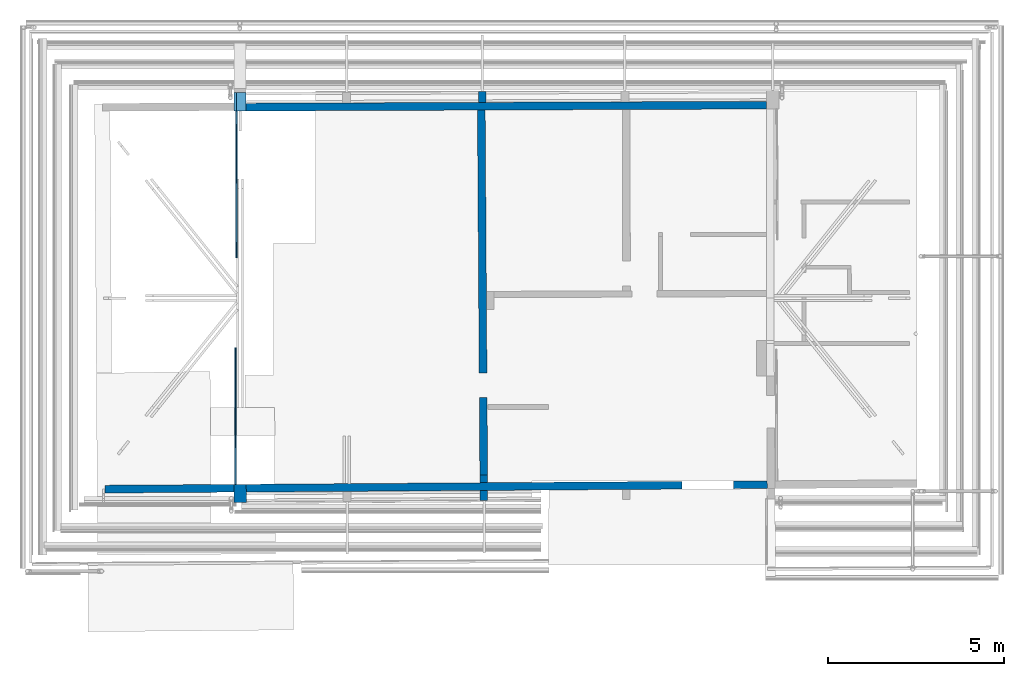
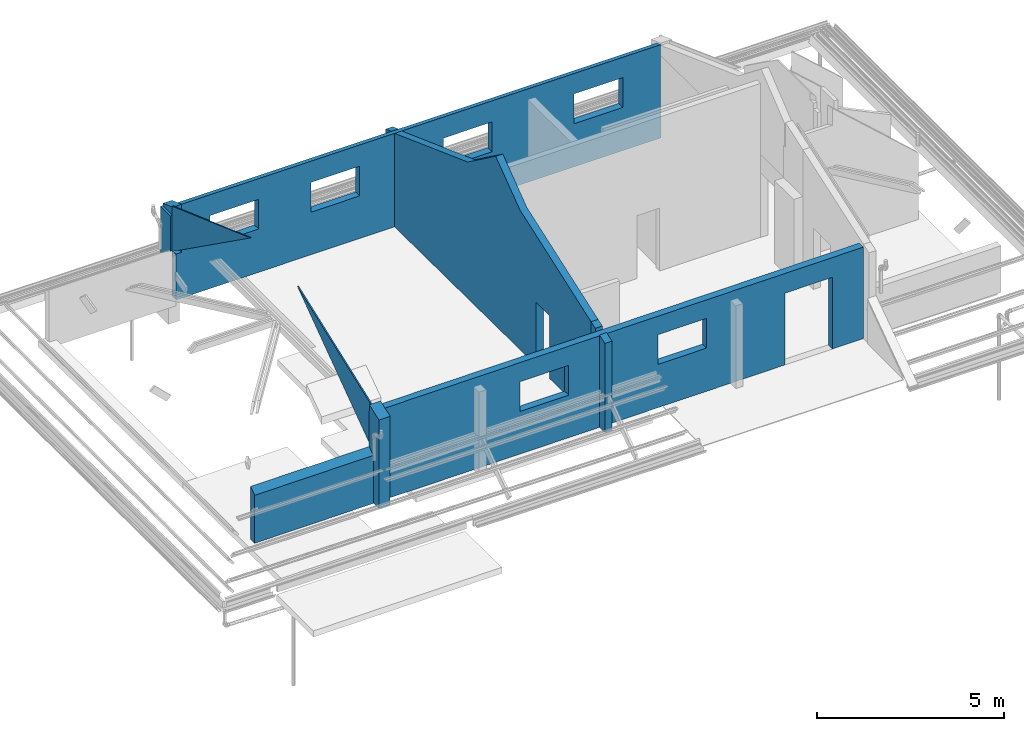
# One storey, part 8 of 15: 11 walls.
"""IFC2X3 building model written with IfcOpenShell, lengths in centimetres."""

from ifc_helpers import new_model, entity, si_unit, converted_unit, direction, frame, origin, place, context, subcontext, project, spatial, faceted_brep, material, layer, layer_set, type_object, element, save


model = new_model("IFC2X3")

# Units and contexts
model_context = context("Model", 3, precision=0.001, world=frame((0.0, 0.0, 13090.0)), true_north=direction((6.123233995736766e-17, 1.0)))
body_context = subcontext(model_context, "Body", "Model", "MODEL_VIEW")
ifc_project = project(units=[si_unit("LENGTHUNIT", "METRE", prefix="CENTI"), si_unit("AREAUNIT", "SQUARE_METRE"), si_unit("VOLUMEUNIT", "CUBIC_METRE"), converted_unit("PLANEANGLEUNIT", "DEGREE", entity("IfcPlaneAngleMeasure", 0.017453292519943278), si_unit("PLANEANGLEUNIT", "RADIAN"), dimensions=[0, 0, 0, 0, 0, 0, 0])], contexts=[model_context])

# Site, building, storey
site_placement = place(None, origin())
site = spatial("IfcSite", under=ifc_project, at=site_placement, Name="Default", CompositionType="ELEMENT")
building_placement = place(site_placement, origin())
building = spatial("IfcBuilding", under=site, at=building_placement, Name="e 39 logements et 22 maisons relais", CompositionType="ELEMENT")
storey_placement = place(building_placement, frame((0.0, 0.0, 340.0)))
storey = spatial("IfcBuildingStorey", under=building, at=storey_placement, Name="R+1", CompositionType="ELEMENT", Elevation=339.99999999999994)

# Walls
ifc_material_1 = material(Name="Béton - Béton coulé sur place")
ifc_layer_1 = layer(ifc_material_1, 22.0)
ifc_layer_set_1 = layer_set([ifc_layer_1], Name="Mur de base:BA - 22cm")
wall_type_1 = type_object("IfcWallType", Name="Mur de base:BA - 22cm", PredefinedType="STANDARD", material=ifc_layer_set_1)
wall_1_placement = place(storey_placement, frame((-912.5294746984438, 520.2105110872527, 0.0), z_axis=(0.0, 0.0, 1.0), x_axis=(0.9999924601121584, 0.0038832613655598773, 0.0)))
element("IfcWall", 1, at=wall_1_placement, inside=storey, type_object=wall_type_1, Name="Mur de base:BA - 22cm", ObjectType="Mur de base:BA - 22cm", context=body_context, shape_type="Brep", body=[
    faceted_brep([(0.0, -11.0, 148.92107592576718), (0.0, -11.0, 0.0), (17.45741575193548, -11.0, 148.92107592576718), (104.36146155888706, -11.0, 141.0), (255.3614615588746, -11.0, 141.0), (416.5725288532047, -11.0, 139.0), (675.6071357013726, -11.0, 0.0), (567.5725288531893, -11.0, 139.0), (697.6072143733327, -11.0, 0.0), (826.4416675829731, -11.0, 139.0), (1087.74298781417, -11.0, 0.0), (977.4416675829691, -11.0, 139.0), (1109.7430308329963, -11.0, 0.0), (1230.5369692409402, -11.0, 141.0), (1498.1881555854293, -11.0, 0.0), (1381.5369692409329, -11.0, 141.0), (1498.6934013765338, -11.0, 0.0), (1498.693401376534, -11.0, 304.3338605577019), (1381.5369692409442, -11.0, 238.0), (1338.4761668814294, -11.0, 304.4954103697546), (1230.5369692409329, -11.0, 238.0), (1178.2589308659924, -11.0, 304.655528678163), (977.4416675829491, -11.0, 236.0), (1018.0416934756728, -11.0, 304.8142154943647), (857.8244545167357, -11.0, 304.9714708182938), (826.4416675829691, -11.0, 236.0), (697.607214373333, -11.0, 305.12729469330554), (686.6071750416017, -11.0, 305.13794058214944), (675.607135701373, -11.0, 305.1485797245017), (567.5725288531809, -11.0, 236.0), (511.06970786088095, -11.0, 305.3069135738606), (416.5725288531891, -11.0, 236.0), (346.5322786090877, -11.0, 305.4637377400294), (255.36146155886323, -11.0, 238.0), (181.9948479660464, -11.0, 305.6190522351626), (104.36146155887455, -11.0, 238.0), (17.45741575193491, -11.0, 305.77285707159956), (17.45741575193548, -11.0, 164.61507589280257), (1498.6817504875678, 11.0, 0.0), (1106.3326989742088, 11.0, 0.0), (1230.5369692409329, 11.0, 141.0), (1381.5369692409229, 11.0, 141.0), (1498.6817504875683, 11.0, 296.23744807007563), (977.4416675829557, 11.0, 139.0), (1084.3325330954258, 11.0, 0.0), (826.441667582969, 11.0, 139.0), (700.5326989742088, 11.0, 0.0), (567.5725288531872, 11.0, 139.0), (678.5325330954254, 11.0, 0.0), (314.29258976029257, 11.0, 0.0), (416.5725288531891, 11.0, 139.0), (255.3614615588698, 11.0, 141.0), (292.2924238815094, 11.0, 0.0), (104.36146155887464, 11.0, 141.0), (0.0, 11.0, 0.0), (17.542848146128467, 11.0, 148.92107592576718), (0.0, 11.0, 148.92107592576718), (104.36146155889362, 11.0, 238.0), (17.542848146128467, 11.0, 297.91033932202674), (149.7407873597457, 11.0, 297.76599975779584), (255.36146155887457, 11.0, 238.0), (281.93872543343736, 11.0, 297.6206854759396), (416.5725288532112, 11.0, 236.0), (414.13666244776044, 11.0, 297.4743964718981), (546.3345983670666, 11.0, 297.3271327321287), (567.5725288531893, 11.0, 236.0), (678.5325330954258, 11.0, 297.17889426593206), (689.5326160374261, 11.0, 297.1665155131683), (700.5326989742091, 11.0, 297.1541300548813), (826.4416675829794, 11.0, 236.0), (860.1625126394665, 11.0, 296.9736361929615), (977.4416675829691, 11.0, 236.0), (1019.7923245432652, 11.0, 296.79172107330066), (1179.422134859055, 11.0, 296.6083846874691), (1230.5369692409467, 11.0, 238.0), (1339.0519435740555, 11.0, 296.4236270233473), (1381.5369692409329, 11.0, 238.0), (1498.685634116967, 3.6666671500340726, 298.93625356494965), (1498.6895177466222, -3.666666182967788, 301.63505770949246), (17.4858932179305, -3.6666666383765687, 303.15201790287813), (17.5143706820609, 3.666666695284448, 300.5311786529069)], [[[0, 1, 2]], [[1, 3, 2]], [[4, 3, 1]], [[5, 4, 1]], [[1, 6, 5]], [[5, 6, 7]], [[7, 6, 8]], [[9, 7, 8]], [[8, 10, 9]], [[11, 9, 10]], [[10, 12, 11]], [[12, 13, 11]], [[14, 13, 12]], [[13, 14, 15]], [[14, 16, 15]], [[16, 17, 15]], [[18, 15, 17]], [[19, 18, 17]], [[20, 18, 19]], [[20, 19, 21]], [[20, 21, 22]], [[22, 21, 23]], [[24, 22, 23]], [[25, 22, 24]], [[25, 24, 26]], [[7, 26, 27]], [[9, 26, 7]], [[25, 26, 9]], [[7, 27, 28]], [[29, 7, 28]], [[29, 28, 30]], [[31, 29, 30]], [[31, 30, 32]], [[33, 31, 32]], [[34, 33, 32]], [[35, 33, 34]], [[35, 34, 36]], [[35, 36, 37]], [[37, 2, 3]], [[37, 3, 35]], [[4, 31, 33]], [[31, 4, 5]], [[22, 11, 13]], [[20, 22, 13]], [[38, 39, 40]], [[40, 41, 38]], [[38, 41, 42]], [[39, 43, 40]], [[44, 43, 39]], [[45, 43, 44]], [[44, 46, 45]], [[45, 46, 47]], [[47, 46, 48]], [[49, 47, 48]], [[47, 49, 50]], [[50, 49, 51]], [[49, 52, 51]], [[53, 51, 52]], [[53, 52, 54]], [[53, 54, 55]], [[55, 54, 56]], [[53, 55, 57]], [[57, 55, 58]], [[59, 57, 58]], [[60, 57, 59]], [[60, 59, 61]], [[60, 61, 62]], [[62, 61, 63]], [[64, 62, 63]], [[65, 62, 64]], [[65, 64, 66]], [[47, 66, 67]], [[65, 66, 47]], [[47, 68, 45]], [[68, 47, 67]], [[68, 69, 45]], [[69, 68, 70]], [[69, 70, 71]], [[72, 71, 70]], [[71, 72, 73]], [[40, 43, 73]], [[40, 73, 74]], [[75, 74, 73]], [[71, 73, 43]], [[76, 74, 75]], [[76, 75, 42]], [[76, 42, 41]], [[50, 51, 62]], [[60, 62, 51]], [[6, 1, 54, 52, 49, 48, 46, 44, 39, 38, 16, 14, 12, 10, 8]], [[18, 76, 41, 15]], [[13, 15, 41, 40]], [[4, 51, 53, 3]], [[13, 40, 74, 20]], [[22, 71, 43, 11]], [[11, 43, 45, 9]], [[7, 47, 50, 5]], [[9, 45, 69, 25]], [[33, 60, 51, 4]], [[3, 53, 57, 35]], [[29, 65, 47, 7]], [[5, 50, 62, 31]], [[20, 74, 76, 18]], [[35, 57, 60, 33]], [[25, 69, 71, 22]], [[31, 62, 65, 29]], [[77, 78, 17, 16, 38, 42]], [[36, 34, 79]], [[59, 79, 34]], [[61, 34, 32]], [[64, 30, 28]], [[63, 32, 30]], [[66, 28, 27]], [[80, 59, 58]], [[80, 79, 59]], [[34, 61, 59]], [[61, 32, 63]], [[63, 30, 64]], [[28, 66, 64]], [[27, 67, 66]], [[70, 24, 23]], [[68, 26, 24]], [[73, 21, 19]], [[17, 78, 19]], [[23, 21, 72]], [[75, 19, 78]], [[70, 68, 24]], [[72, 70, 23]], [[67, 26, 68]], [[19, 75, 73]], [[73, 72, 21]], [[42, 75, 77]], [[77, 75, 78]], [[26, 67, 27]], [[1, 0, 56, 54]], [[56, 0, 2, 55]], [[80, 58, 55, 2, 37, 36, 79]]]),
])
wall_2_placement = place(storey_placement, frame((-225.88495363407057, 511.90628607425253, 0.0), z_axis=(0.0, 0.0, 1.0), x_axis=(0.006557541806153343, -0.9999784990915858, 0.0)))
element("IfcWall", 2, at=wall_2_placement, inside=storey, type_object=wall_type_1, Name="Mur de base:BA - 22cm", ObjectType="Mur de base:BA - 22cm", context=body_context, shape_type="Brep", body=[
    faceted_brep([(1038.2628641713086, -11.0, 0.0), (818.4628641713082, -11.0, 0.0), (818.4628641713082, 11.0, 0.0), (1038.262864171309, 11.0, 0.0), (748.4628641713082, -11.0, 0.0), (0.0, -11.0, 0.0), (0.05883512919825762, 11.0, 0.0), (748.462864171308, 11.0, 0.0), (0.0, -11.0, 305.1485797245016), (748.4628641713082, -11.0, 205.0), (818.4628641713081, -11.0, 205.0), (1038.2628641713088, -11.0, 317.84805986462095), (996.5452066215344, -11.0, 333.132241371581), (954.8276663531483, -11.0, 348.4167438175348), (913.1102435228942, -11.0, 363.7015669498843), (871.3929383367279, -11.0, 378.98671049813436), (829.675750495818, -11.0, 394.2721743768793), (787.9586799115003, -11.0, 409.5579584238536), (746.2417265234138, -11.0, 424.84406246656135), (704.5248902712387, -11.0, 440.1304863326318), (662.8081710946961, -11.0, 455.4185943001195), (648.5425086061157, -11.0, 466.2643836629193), (634.2762622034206, -11.0, 477.1094012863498), (620.009415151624, -11.0, 487.95360953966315), (605.7419236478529, -11.0, 498.7969885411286), (591.4737706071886, -11.0, 509.6394950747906), (577.2049366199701, -11.0, 520.4810844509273), (562.935366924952, -11.0, 531.3217353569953), (548.6650495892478, -11.0, 542.1613901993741), (534.3939560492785, -11.0, 553.0), (517.993624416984, -11.0, 541.0236817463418), (501.59333020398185, -11.0, 529.0473116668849), (485.19307339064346, -11.0, 517.0708897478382), (468.7928548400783, -11.0, 505.0944166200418), (452.39267371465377, -11.0, 493.1178916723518), (435.99252999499, -11.0, 481.14131486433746), (419.5924245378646, -11.0, 469.16468690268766), (403.19235649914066, -11.0, 457.1880070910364), (386.79232585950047, -11.0, 445.21198860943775), (343.81552476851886, -11.0, 429.6490451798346), (300.83869272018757, -11.0, 414.08618723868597), (257.8618296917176, -11.0, 398.5234148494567), (214.88493566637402, -11.0, 382.96072805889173), (171.90801062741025, -11.0, 367.3981269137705), (128.9310545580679, -11.0, 351.8356114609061), (85.95406744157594, -11.0, 336.2731817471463), (42.97704926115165, -11.0, 320.7108378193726), (996.5612324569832, 11.0, 333.1467331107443), (1038.2628641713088, 11.0, 317.87851225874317), (818.4628641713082, 11.0, 205.0), (748.4628641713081, 11.0, 205.0), (0.05883512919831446, 11.0, 305.12729469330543), (43.045373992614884, 11.0, 320.6997778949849), (86.03188253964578, 11.0, 336.27234478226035), (129.01836078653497, 11.0, 351.84499530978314), (172.00480874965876, 11.0, 367.4177294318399), (214.99122644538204, 11.0, 382.99054710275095), (257.97761389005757, 11.0, 398.5634482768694), (300.9639711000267, 11.0, 414.1364329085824), (343.9502980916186, 11.0, 429.7095009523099), (386.9365948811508, 11.0, 445.2841382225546), (403.33662554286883, 11.0, 457.25277409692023), (419.7366936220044, 11.0, 469.221358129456), (436.1367990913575, 11.0, 481.18989029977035), (452.5369428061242, 11.0, 493.15837123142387), (468.9371239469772, 11.0, 505.12680032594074), (485.3373424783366, 11.0, 517.0951775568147), (501.7375992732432, 11.0, 529.0635035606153), (518.137893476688, 11.0, 541.0317777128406), (534.5382250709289, 11.0, 553.0), (548.8086792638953, 11.0, 542.1492147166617), (563.078525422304, 11.0, 531.2976262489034), (577.3477963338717, 11.0, 520.4452643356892), (591.6165013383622, 11.0, 509.5921734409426), (605.8846716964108, 11.0, 498.7383784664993), (620.152336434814, 11.0, 487.8839033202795), (634.4194989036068, 11.0, 477.0287889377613), (648.6861929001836, 11.0, 466.17305075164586), (662.9524401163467, 11.0, 455.3041415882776), (704.6531255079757, 11.0, 440.033335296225), (746.3539287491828, 11.0, 424.76285165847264), (788.0548501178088, 11.0, 409.49269076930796), (829.7558899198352, 11.0, 394.2228527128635), (871.4570480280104, 11.0, 378.95333773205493), (913.1583244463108, 11.0, 363.6841460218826), (954.8597192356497, 11.0, 348.4152777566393), (1038.2628641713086, 3.666666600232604, 317.86836921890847), (1038.2628641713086, -3.6666667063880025, 317.85821842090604), (0.019611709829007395, -3.666666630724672, 305.14148771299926), (0.03922341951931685, 3.666666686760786, 305.1343927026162), (105.72304289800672, -0.06998730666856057, 343.4188632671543), (277.6347329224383, -0.07064190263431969, 405.6841659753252), (386.8404155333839, -3.666666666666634, 445.23554319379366), (191.67895139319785, -0.07031443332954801, 374.5513464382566), (386.8885052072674, 3.666666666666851, 445.25909777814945), (662.8322159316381, -7.3333333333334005, 455.3983818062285), (662.8562607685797, -3.6666666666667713, 455.3795337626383), (662.8803056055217, 0.0, 455.3606857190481), (662.9043504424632, 3.6666666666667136, 455.3418376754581), (662.9283952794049, 7.333333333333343, 455.3229896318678), (426.9493519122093, -0.047771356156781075, 474.51126797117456), (476.14983875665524, -0.047771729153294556, 510.42884245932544), (534.4420457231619, -3.666666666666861, 553.0), (534.4901353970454, 3.6666666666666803, 553.0)], [[[0, 1, 2, 3]], [[4, 5, 6, 7]], [[8, 5, 4, 9, 10, 1, 0, 11, 12, 13, 14, 15, 16, 17, 18, 19, 20, 21, 22, 23, 24, 25, 26, 27, 28, 29, 30, 31, 32, 33, 34, 35, 36, 37, 38, 39, 40, 41, 42, 43, 44, 45, 46]], [[47, 48, 3, 2, 49, 50, 7, 6, 51, 52, 53, 54, 55, 56, 57, 58, 59, 60, 61, 62, 63, 64, 65, 66, 67, 68, 69, 70, 71, 72, 73, 74, 75, 76, 77, 78, 79, 80, 81, 82, 83, 84, 85]], [[0, 3, 48, 86, 87, 11]], [[10, 49, 2, 1]], [[4, 7, 50, 9]], [[8, 88, 89, 51, 6, 5]], [[10, 9, 50, 49]], [[90, 53, 52]], [[91, 41, 40]], [[42, 41, 91]], [[39, 38, 92]], [[92, 91, 39]], [[90, 44, 93]], [[93, 43, 42]], [[40, 39, 91]], [[56, 91, 57]], [[45, 90, 46]], [[8, 46, 88]], [[90, 45, 44]], [[93, 42, 91]], [[93, 44, 43]], [[88, 46, 90]], [[54, 93, 55]], [[91, 92, 94]], [[91, 56, 93]], [[58, 57, 91]], [[55, 93, 56]], [[59, 58, 91]], [[59, 94, 60]], [[89, 52, 51]], [[89, 90, 52]], [[89, 88, 90]], [[54, 53, 90]], [[93, 54, 90]], [[94, 59, 91]], [[14, 83, 15]], [[13, 84, 14]], [[12, 11, 87]], [[12, 87, 13]], [[82, 16, 15]], [[95, 20, 19]], [[96, 19, 18]], [[80, 18, 17]], [[95, 19, 96]], [[81, 17, 16]], [[97, 96, 18]], [[87, 85, 13]], [[83, 82, 15]], [[14, 84, 83]], [[82, 81, 16]], [[48, 47, 86]], [[84, 13, 85]], [[47, 85, 86]], [[98, 97, 80]], [[99, 98, 79, 78]], [[80, 97, 18]], [[80, 79, 98]], [[81, 80, 17]], [[86, 85, 87]], [[92, 38, 37]], [[37, 36, 100]], [[100, 36, 35]], [[92, 37, 100]], [[101, 34, 33]], [[60, 94, 61]], [[94, 100, 61]], [[100, 35, 34]], [[101, 32, 31]], [[92, 100, 94]], [[100, 63, 62]], [[100, 62, 61]], [[64, 63, 100]], [[101, 65, 64]], [[34, 101, 100]], [[32, 101, 33]], [[31, 102, 101]], [[30, 29, 102]], [[30, 102, 31]], [[101, 102, 103]], [[101, 66, 65]], [[101, 67, 66]], [[68, 103, 69]], [[103, 68, 67]], [[67, 101, 103]], [[64, 100, 101]], [[98, 99, 78, 77, 97]], [[97, 77, 76]], [[22, 76, 75]], [[97, 76, 96]], [[95, 96, 21]], [[21, 20, 95]], [[21, 76, 22]], [[76, 21, 96]], [[75, 23, 22]], [[75, 74, 23]], [[73, 24, 74]], [[72, 25, 73]], [[27, 71, 70]], [[69, 103, 70]], [[72, 71, 26]], [[27, 70, 103]], [[24, 73, 25]], [[25, 72, 26]], [[27, 102, 28]], [[27, 26, 71]], [[29, 28, 102]], [[27, 103, 102]], [[74, 24, 23]]]),
])
wall_3_placement = place(storey_placement, frame((-223.0447735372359, 564.4321598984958, 0.0), z_axis=(0.0, 0.0, 1.0), x_axis=(0.0, -1.0, 0.0)))
element("IfcWall", 3, at=wall_3_placement, inside=storey, type_object=wall_type_1, Name="Mur de base:BA - 22cm", ObjectType="Mur de base:BA - 22cm", context=body_context, shape_type="Brep", body=[
    faceted_brep([(6.117361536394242, -11.0, 288.3177268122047), (0.0, -11.0, 286.10243148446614), (0.0, -11.0, 0.0), (30.58681257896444, -11.0, 0.0), (30.58681257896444, -11.0, 297.17889426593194), (24.469449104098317, -11.0, 294.9636044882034), (18.352086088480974, -11.0, 292.74831331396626), (12.234723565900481, -11.0, 290.53302075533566), (30.501380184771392, 11.0, 0.0), (0.0, 11.0, 0.0), (0.0, 11.0, 286.1037854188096), (6.100275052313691, 11.0, 288.3138571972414), (12.200550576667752, 11.0, 290.5239275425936), (18.300826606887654, 11.0, 292.73399646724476), (24.401103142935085, 11.0, 294.9440639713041), (30.501380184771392, 11.0, 297.1541300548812), (0.0, -3.666666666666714, 286.10288279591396), (0.0, 3.6666666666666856, 286.10333410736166), (30.52985764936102, 3.6666667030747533, 297.1623877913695), (30.558335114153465, -3.6666666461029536, 297.17064252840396), (15.35465107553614, -0.012388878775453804, 291.66473448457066)], [[[0, 1, 2, 3, 4, 5, 6, 7]], [[8, 9, 10, 11, 12, 13, 14, 15]], [[3, 2, 9, 8]], [[2, 1, 16, 17, 10, 9]], [[18, 19, 4, 3, 8, 15]], [[5, 4, 19]], [[7, 6, 20]], [[20, 5, 19]], [[7, 20, 0]], [[16, 1, 0]], [[20, 16, 0]], [[20, 19, 18]], [[18, 15, 14]], [[13, 20, 14]], [[11, 20, 12]], [[20, 11, 17]], [[16, 20, 17]], [[11, 10, 17]], [[6, 5, 20]], [[12, 20, 13]], [[18, 14, 20]]]),
])
wall_4_placement = place(storey_placement, frame((587.8200843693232, -553.9866061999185, 0.0), z_axis=(0.0, 0.0, 1.0), x_axis=(-0.9999767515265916, -0.006818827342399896, 0.0)))
element("IfcWall", 4, at=wall_4_placement, inside=storey, type_object=wall_type_1, Name="Mur de base:BA - 22cm", ObjectType="Mur de base:BA - 22cm", context=body_context, shape_type="Brep", body=[
    faceted_brep([(1500.173963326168, -11.0, 298.27462213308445), (0.0, -11.0, 298.27462213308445), (0.0, -11.0, 0.0), (96.00734977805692, -11.0, 0.0), (96.0073497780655, -11.0, 234.0), (243.00734977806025, -11.0, 234.0), (243.00734977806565, -11.0, 0.0), (795.6950583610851, -11.0, 0.0), (817.6950591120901, -11.0, 0.0), (1378.5071719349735, -11.0, 0.0), (1400.507172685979, -11.0, 0.0), (1482.6710885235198, -11.0, 0.0), (1482.6710885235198, -11.0, 288.89374646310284), (1500.173963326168, -11.0, 288.89374646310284), (485.9478266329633, -11.0, 141.0), (485.9478266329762, -11.0, 238.0), (636.9478266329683, -11.0, 238.0), (636.9478266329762, -11.0, 141.0), (912.9392468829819, -11.0, 139.0), (912.9392468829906, -11.0, 236.0), (1063.9392468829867, -11.0, 236.0), (1063.9392468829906, -11.0, 139.0), (0.005748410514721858, 11.0, 298.27462213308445), (1500.173963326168, 11.0, 298.27462213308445), (1500.173963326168, 11.0, 288.89374646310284), (1482.6768369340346, 11.0, 288.89374646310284), (1482.6768369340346, 11.0, 0.0), (1206.7364337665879, 11.0, 0.0), (1184.7359222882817, 11.0, 0.0), (817.7008075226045, 11.0, 0.0), (795.7008067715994, 11.0, 0.0), (412.03643376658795, 11.0, 0.0), (390.035922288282, 11.0, 0.0), (243.00734977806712, 11.0, 0.0), (243.0073497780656, 11.0, 234.0), (96.00734977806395, 11.0, 234.0), (96.00734977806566, 11.0, 0.0), (0.005748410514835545, 11.0, 0.0), (485.9478266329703, 11.0, 238.0), (485.9478266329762, 11.0, 141.0), (636.9478266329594, 11.0, 141.0), (636.9478266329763, 11.0, 238.0), (912.9392468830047, 11.0, 236.0), (912.9392468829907, 11.0, 139.0), (1063.9392468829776, 11.0, 139.0), (1063.9392468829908, 11.0, 236.0)], [[[0, 1, 2, 3, 4, 5, 6, 7, 8, 9, 10, 11, 12, 13], [14, 15, 16, 17], [18, 19, 20, 21]], [[22, 23, 24, 25, 26, 27, 28, 29, 30, 31, 32, 33, 34, 35, 36, 37], [38, 39, 40, 41], [42, 43, 44, 45]], [[2, 37, 36, 3]], [[1, 0, 23, 22]], [[6, 5, 34, 33]], [[4, 3, 36, 35]], [[38, 15, 14, 39]], [[39, 14, 17, 40]], [[40, 17, 16, 41]], [[18, 43, 42, 19]], [[43, 18, 21, 44]], [[44, 21, 20, 45]], [[34, 5, 4, 35]], [[15, 38, 41, 16]], [[19, 42, 45, 20]], [[1, 22, 37, 2]], [[23, 0, 13, 24]], [[12, 11, 26, 25]], [[24, 13, 12, 25]], [[11, 10, 9, 8, 7, 6, 33, 32, 31, 30, 29, 28, 27, 26]]]),
])
wall_5_placement = place(storey_placement, frame((-219.07650149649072, -526.3342545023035, 0.0), z_axis=(0.0, 0.0, 1.0), x_axis=(0.006557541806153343, -0.9999784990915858, 0.0)))
element("IfcWall", 5, at=wall_5_placement, inside=storey, type_object=wall_type_1, Name="Mur de base:BA - 22cm", ObjectType="Mur de base:BA - 22cm", context=body_context, shape_type="Brep", body=[
    faceted_brep([(0.0, -11.0, 317.84805986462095), (0.0, -11.0, 0.0), (22.156672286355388, -11.0, 0.0), (22.156672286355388, -11.0, 309.7306236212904), (14.771111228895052, -11.0, 312.4364256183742), (7.385553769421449, -11.0, 315.142237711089), (22.150923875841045, 11.0, 309.7685425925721), (22.150923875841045, 11.0, 0.0), (0.0, 11.0, 0.0), (0.0, 11.0, 317.87851225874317), (7.383637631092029, 11.0, 315.1751788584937), (14.767278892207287, 11.0, 312.47185564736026), (0.0, -3.6666667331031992, 317.8582184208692), (0.0, 3.6666666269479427, 317.8683692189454), (22.15284001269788, 3.6666665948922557, 309.7559110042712), (22.154756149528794, -3.6666667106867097, 309.7432713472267), (11.04504730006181, -0.010855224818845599, 313.8180797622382)], [[[0, 1, 2, 3, 4, 5]], [[6, 7, 8, 9, 10, 11]], [[2, 1, 8, 7]], [[1, 0, 12, 13, 9, 8]], [[14, 15, 3, 2, 7, 6]], [[4, 3, 15]], [[16, 5, 4]], [[0, 5, 12]], [[12, 5, 16]], [[16, 4, 15]], [[14, 16, 15]], [[14, 6, 11]], [[10, 16, 11]], [[13, 10, 9]], [[16, 13, 12]], [[13, 16, 10]], [[14, 11, 16]]]),
])
wall_6_placement = place(storey_placement, frame((-218.78697996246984, -570.4842298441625, 0.0), z_axis=(0.0, 0.0, 1.0), x_axis=(0.006557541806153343, -0.9999784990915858, 0.0)))
element("IfcWall", 6, at=wall_6_placement, inside=storey, type_object=wall_type_1, Name="Mur de base:BA - 22cm", ObjectType="Mur de base:BA - 22cm", context=body_context, shape_type="Brep", body=[
    faceted_brep([(0.005748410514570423, -11.0, 301.67068804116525), (0.005748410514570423, -11.0, 0.0), (28.949075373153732, -11.0, 0.0), (28.949075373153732, -11.0, 291.067144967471), (21.713238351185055, -11.0, 293.7180162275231), (14.477404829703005, -11.0, 296.36889716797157), (7.241574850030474, -11.0, 299.0197877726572), (28.94907537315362, 11.0, 291.1152915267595), (28.94907537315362, 11.0, 0.0), (0.0, 11.0, 0.0), (0.0, 11.0, 301.71393202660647), (7.23726351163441, 11.0, 299.0642572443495), (14.474530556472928, 11.0, 296.41459224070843), (21.711801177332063, 11.0, 293.7649370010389), (28.949075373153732, 3.6666665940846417, 291.0992504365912), (28.94907537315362, -3.66666671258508, 291.08320158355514), (0.0038322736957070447, -3.6666667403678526, 301.6851107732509), (0.001916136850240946, 3.6666666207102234, 301.6995254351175), (15.340141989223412, -0.0048748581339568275, 296.07525347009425)], [[[0, 1, 2, 3, 4, 5, 6]], [[7, 8, 9, 10, 11, 12, 13]], [[2, 1, 9, 8]], [[2, 8, 7, 14, 15, 3]], [[0, 16, 17, 10, 9, 1]], [[4, 3, 15]], [[15, 18, 4]], [[0, 6, 16]], [[18, 6, 5]], [[6, 18, 16]], [[18, 12, 11]], [[4, 18, 5]], [[14, 7, 13]], [[14, 18, 15]], [[13, 12, 18]], [[10, 17, 11]], [[11, 17, 18]], [[17, 16, 18]], [[14, 13, 18]]]),
])
wall_7_placement = place(storey_placement, frame((-929.8219785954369, -564.2503859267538, 0.0), z_axis=(0.0, 0.0, 1.0), x_axis=(-0.9999767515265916, -0.006818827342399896, 0.0)))
element("IfcWall", 7, at=wall_7_placement, inside=storey, type_object=wall_type_1, Name="Mur de base:BA - 22cm", ObjectType="Mur de base:BA - 22cm", context=body_context, shape_type="Brep", body=[
    faceted_brep([(40.83333458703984, -11.0, 172.47690459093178), (0.0, -11.0, 172.49986605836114), (0.0, -11.0, 0.0), (65.39430269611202, -11.0, 0.0), (85.3943033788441, -11.0, 0.0), (367.50010392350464, -11.0, 0.0), (367.5001039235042, -11.0, 172.2934235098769), (326.66675396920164, -11.0, 172.31633819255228), (285.8334029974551, -11.0, 172.33925871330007), (245.0000635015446, -11.0, 172.36218506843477), (204.1667170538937, -11.0, 172.3851172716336), (163.33336851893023, -11.0, 172.40805532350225), (122.50003147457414, -11.0, 172.43099921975), (81.6666806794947, -11.0, 172.4539489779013), (367.5001039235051, 11.0, 0.0), (0.0, 11.0, 0.0), (0.0, 11.0, 156.59512752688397), (40.833340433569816, 11.0, 156.57411154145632), (81.66667995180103, 11.0, 156.5531004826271), (122.5000295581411, 11.0, 156.53209434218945), (163.33337308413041, 11.0, 156.51109312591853), (204.1667147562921, 11.0, 156.49009682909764), (245.00006650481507, 11.0, 156.46910544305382), (285.8334062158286, 11.0, 156.4481189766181), (326.6667500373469, 11.0, 156.42713741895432), (367.50010392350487, 11.0, 156.40616076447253), (367.5001039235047, 5.500070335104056, 160.37806734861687), (367.50010392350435, 9.306975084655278e-05, 164.3499158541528), (367.5001039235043, -5.499929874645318, 168.32170191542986), (0.0, -5.499998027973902, 168.52368396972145), (0.0, 2.552344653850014e-06, 164.54750018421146), (0.0, 5.500001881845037, 160.57131468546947), (140.4053938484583, 0.04106860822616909, 164.44230980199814), (260.37865507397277, 0.07780641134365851, 164.3513066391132)], [[[0, 1, 2, 3, 4, 5, 6, 7, 8, 9, 10, 11, 12, 13]], [[14, 15, 16, 17, 18, 19, 20, 21, 22, 23, 24, 25]], [[3, 2, 15, 14, 5, 4]], [[6, 5, 14, 25, 26, 27, 28]], [[1, 29, 30, 31, 16, 15, 2]], [[19, 32, 20]], [[32, 18, 31]], [[17, 16, 31]], [[17, 31, 18]], [[21, 20, 32]], [[26, 25, 24]], [[24, 23, 33]], [[33, 23, 22]], [[33, 26, 24]], [[21, 32, 33]], [[26, 33, 27]], [[30, 32, 31]], [[13, 12, 32]], [[32, 29, 13]], [[32, 11, 10]], [[19, 18, 32]], [[0, 13, 29]], [[1, 0, 29]], [[11, 32, 12]], [[33, 22, 21]], [[28, 7, 6]], [[7, 28, 8]], [[33, 9, 8]], [[33, 32, 10]], [[28, 27, 33]], [[33, 8, 28]], [[10, 9, 33]], [[30, 29, 32]]]),
])
ifc_layer_2 = layer(ifc_material_1, 35.0)
ifc_layer_set_2 = layer_set([ifc_layer_2], Name="Mur de base:BA - 35")
wall_type_2 = type_object("IfcWallType", Name="Mur de base:BA - 35", PredefinedType="STANDARD", material=ifc_layer_set_2)
wall_8_placement = place(storey_placement, frame((-912.5294746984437, 561.4383854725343, 127.43327064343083), z_axis=(0.0, 0.0, 1.0), x_axis=(0.0, -1.0, 0.0)))
element("IfcWall", 8, at=wall_8_placement, inside=storey, type_object=wall_type_2, Name="Mur de base:BA - 35", ObjectType="Mur de base:BA - 35", context=body_context, shape_type="Brep", body=[
    faceted_brep([(0.0, -17.500000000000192, 0.0), (52.29591491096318, -17.500000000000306, 37.27869120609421), (52.29591491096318, -17.500000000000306, 152.54459860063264), (0.0, -17.500000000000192, 152.54459860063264), (46.659958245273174, 17.499999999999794, 176.3739570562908), (52.15999973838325, 17.499999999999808, 178.33958642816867), (52.15999973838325, 17.499999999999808, 37.18180524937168), (0.0, 17.499999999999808, 0.0), (0.0, 17.499999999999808, 159.69841093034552), (6.0319667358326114, 17.499999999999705, 161.85414258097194), (12.063933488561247, 17.49999999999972, 164.0098741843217), (18.095900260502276, 17.499999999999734, 166.16560573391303), (24.12786705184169, 17.499999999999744, 168.32133722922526), (30.159833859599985, 17.49999999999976, 170.47706867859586), (35.65987530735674, 17.49999999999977, 172.44269817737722), (41.159916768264, 17.499999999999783, 174.40832763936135), (52.181746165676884, 11.900000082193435, 178.34479462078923), (52.20349259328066, 6.300000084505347, 178.35000106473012), (52.2252390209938, 0.700000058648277, 178.35520575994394), (52.24698544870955, -4.899999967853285, 178.360408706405), (52.26873187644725, -10.500000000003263, 178.36560990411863), (52.26873187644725, -10.500000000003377, 152.54459860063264), (0.0, -10.50000000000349, 152.54459860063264), (0.0, -10.500000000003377, 159.69608560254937), (0.0, -3.50000000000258, 159.69666693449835), (0.0, 3.4999999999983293, 159.69724826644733), (0.0, 10.49999999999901, 159.69782959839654), (45.73514039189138, -10.500000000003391, 176.03191936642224), (39.201548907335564, -10.500000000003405, 173.6982288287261), (32.66795742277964, -10.50000000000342, 171.36453829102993), (26.134365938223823, -10.500000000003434, 169.03084775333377), (19.600774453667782, -10.500000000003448, 166.69715721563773), (13.067182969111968, -10.500000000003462, 164.36346667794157), (6.533591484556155, -10.500000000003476, 162.02977614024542), (26.17164673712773, 3.5215230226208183, 169.04796396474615)], [[[0, 1, 2, 3]], [[4, 5, 6, 7, 8, 9, 10, 11, 12, 13, 14, 15]], [[1, 6, 5, 16, 17, 18, 19, 20, 21, 2]], [[1, 0, 7, 6]], [[0, 3, 22, 23, 24, 25, 26, 8, 7]], [[3, 2, 21, 22]], [[23, 22, 21, 20, 27, 28, 29, 30, 31, 32, 33]], [[27, 20, 19, 28]], [[34, 28, 19]], [[34, 19, 18]], [[34, 32, 31, 30, 29, 28]], [[32, 24, 23, 33]], [[34, 24, 32]], [[25, 24, 34, 26]], [[18, 17, 34]], [[16, 5, 4]], [[16, 14, 34]], [[17, 16, 34]], [[15, 14, 16]], [[4, 15, 16]], [[14, 13, 34]], [[34, 11, 26]], [[34, 13, 12]], [[11, 10, 26]], [[9, 8, 26]], [[10, 9, 26]], [[34, 12, 11]]]),
])
wall_9_placement = place(storey_placement, frame((-912.0560372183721, -604.3163237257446, 0.0), z_axis=(0.0, 0.0, 1.0), x_axis=(-0.006557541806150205, 0.9999784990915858, 0.0)))
element("IfcWall", 9, at=wall_9_placement, inside=storey, type_object=wall_type_2, Name="Mur de base:BA - 35", ObjectType="Mur de base:BA - 35", context=body_context, shape_type="Brep", body=[
    faceted_brep([(0.0, -17.49999999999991, 289.453275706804), (0.0, -17.49999999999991, 0.0), (29.10572472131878, -17.499999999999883, 0.0), (51.10572547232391, -17.49999999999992, 0.0), (51.10572547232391, -17.49999999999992, 288.89374646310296), (51.10572547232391, -17.49999999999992, 308.55020597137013), (44.71751657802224, -17.499999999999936, 306.1630711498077), (38.32930580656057, -17.49999999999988, 303.77594164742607), (31.941093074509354, -17.49999999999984, 301.38881743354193), (25.55287838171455, -17.499999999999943, 299.00169850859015), (19.164661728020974, -17.49999999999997, 296.61458487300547), (12.7764431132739, -17.49999999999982, 294.2274765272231), (6.38822253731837, -17.499999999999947, 291.8403734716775), (51.09658027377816, 17.499999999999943, 288.89374646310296), (51.09658027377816, 17.499999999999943, 0.0), (0.0, 17.500000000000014, 0.0), (0.0, 17.500000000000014, 288.89374646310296), (0.0, -10.503255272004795, 289.4372512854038), (0.0, -3.5065107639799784, 289.42121979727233), (0.0, 3.4902337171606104, 289.40518124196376), (0.0, 10.486978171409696, 289.38913561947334), (0.0, 17.483722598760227, 289.37308292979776), (0.0, 17.48372259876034, 288.89374646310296), (51.10210411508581, -3.6405411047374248, 308.5248978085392), (51.10391479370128, -10.570270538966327, 308.53755549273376), (51.096672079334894, 17.148646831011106, 288.89374646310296), (51.096672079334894, 17.14864683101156, 308.48688152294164), (51.09848275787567, 10.21891768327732, 308.499560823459), (51.10029343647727, 3.289188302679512, 308.5122329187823), (6.387084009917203, 17.44183812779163, 291.7623077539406), (12.774168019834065, 17.399953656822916, 294.1515325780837), (19.161252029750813, 17.35806918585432, 296.54075740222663), (25.54833603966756, 17.31618471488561, 298.9299822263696), (31.935420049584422, 17.27430024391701, 301.31920705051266), (38.322504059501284, 17.2324157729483, 303.70843187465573), (44.709588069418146, 17.19053130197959, 306.0976566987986), (25.027870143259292, -0.09006800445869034, 298.7704250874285)], [[[0, 1, 2, 3, 4, 5, 6, 7, 8, 9, 10, 11, 12]], [[13, 14, 15, 16]], [[2, 1, 15, 14, 3]], [[0, 17, 18, 19, 20, 21, 22, 16, 15, 1]], [[23, 24, 5, 4, 3, 14, 13, 25, 26, 27, 28]], [[22, 25, 13, 16]], [[25, 22, 21, 29, 30, 31, 32, 33, 34, 35, 26]], [[29, 21, 20, 30]], [[36, 30, 20]], [[36, 20, 19]], [[36, 34, 33, 32, 31, 30]], [[26, 35, 34, 27]], [[36, 27, 34]], [[27, 36, 28]], [[36, 11, 10]], [[36, 17, 11]], [[10, 9, 36]], [[12, 11, 17]], [[0, 12, 17]], [[23, 36, 24]], [[5, 24, 6]], [[7, 36, 8]], [[36, 9, 8]], [[7, 6, 24]], [[18, 36, 19]], [[24, 36, 7]], [[23, 28, 36]], [[36, 18, 17]]]),
])
ifc_material_2 = material(Name="tole")
wall_type_3 = type_object("IfcWallType", Name="Murs 2:Murs 1", PredefinedType="NOTDEFINED", material=ifc_material_2)
wall_10_placement = place(storey_placement, frame((-927.0163903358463, -553.3355990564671, 176.74243720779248), z_axis=(0.0, 0.0, 1.0), x_axis=(0.0, 1.0, 0.0)))
element("IfcWall", 10, at=wall_10_placement, inside=storey, type_object=wall_type_3, material=ifc_material_2, Name="Murs 2:Murs 1", ObjectType="Murs 2:Murs 1", context=body_context, shape_type="Brep", body=[
    faceted_brep([(0.0, 0.0, 0.0), (0.0, 0.0, 136.1336990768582), (389.13844305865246, 0.0, 281.0009460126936), (0.0, -4.0, 0.0), (389.13844305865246, -4.0, 281.0009460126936), (0.0, -4.0, 136.1336990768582)], [[[0, 1, 2]], [[3, 4, 5]], [[0, 2, 4, 3]], [[2, 1, 5, 4]], [[1, 0, 3, 5]]]),
])
wall_type_4 = type_object("IfcWallType", Name="Murs 1:Murs 1", PredefinedType="NOTDEFINED", material=ifc_material_2)
wall_11_placement = place(storey_placement, frame((-925.0163903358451, 91.20747199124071, 162.0266558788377), z_axis=(0.0, 0.0, 1.0), x_axis=(0.0, 1.0, 0.0)))
element("IfcWall", 11, at=wall_11_placement, inside=storey, type_object=wall_type_4, material=ifc_material_2, Name="Murs 1:Murs 1", ObjectType="Murs 1:Murs 1", context=body_context, shape_type="Brep", body=[
    faceted_brep([(417.96218160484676, 0.0, 0.0), (0.0, 0.0, 297.9077616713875), (417.96218160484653, 0.0, 148.1362951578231), (417.96218160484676, -4.0, 0.0), (417.96218160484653, -4.0, 148.1362951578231), (0.0, -4.0, 297.9077616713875)], [[[0, 1, 2]], [[3, 4, 5]], [[1, 0, 3, 5]], [[2, 1, 5, 4]], [[0, 2, 4, 3]]]),
])

save(model, "model.ifc")
